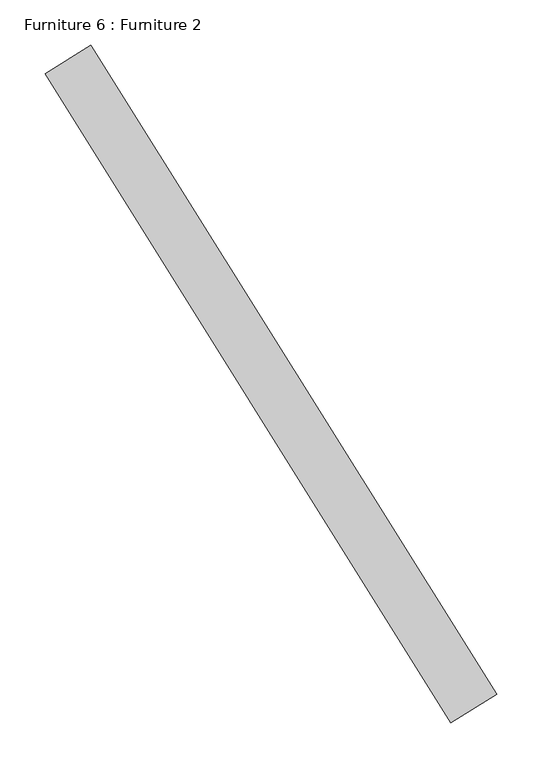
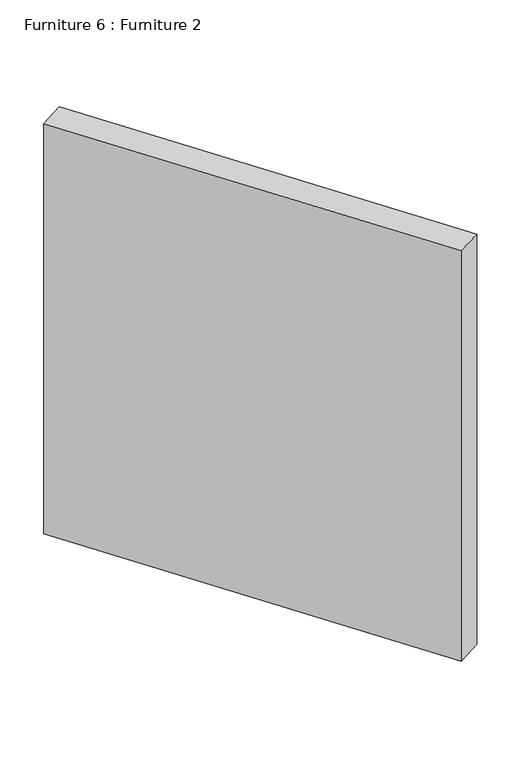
"""IFC4 building model written with IfcOpenShell, lengths in millimetres: furniture geometry, Furniture 6 : Furniture 2."""

from ifc_helpers import new_model, si_unit, frame, origin, place, context, project, spatial, polyline, outline, extrude, source, transform, mapped, element, save


def furniture_6_furniture_2_2fe2da03(model_context):
    return source(origin(), model_context, "Body", "SweptSolid", [
        extrude(outline(polyline([(-10433.5974971, 5931.9067329), (-10382.7146114, 5963.7018888), (-9932.5715311, 5243.3223745), (-9983.4544169, 5211.5272186), (-10433.5974971, 5931.9067329)])), frame((0.0, 0.0, 2500.0), z_axis=(0.0, 0.0, 1.0), x_axis=(1.0, 0.0, 0.0)), (0.0, 0.0, 1.0), 900.0),
    ])


if __name__ == "__main__":
    model = new_model("IFC4")
    model_context = context("Model", 3, world=origin())
    ifc_project = project(units=[si_unit("LENGTHUNIT", "METRE", prefix="MILLI")], contexts=[model_context])
    site = spatial("IfcSite", under=ifc_project)
    building = spatial("IfcBuilding", under=site)
    placement = place(None, origin())
    furniture_6_furniture_2_shape = furniture_6_furniture_2_2fe2da03(model_context)
    element("IfcFurniture", 1, ObjectType="Furniture 6 : Furniture 2", at=placement, inside=building, context=model_context, shape_type="MappedRepresentation", body=[
        mapped(furniture_6_furniture_2_shape, transform((0.0, 0.0, 0.0), x_axis=(1.0, 0.0, 0.0), y_axis=(0.0, 1.0, 0.0), z_axis=(0.0, 0.0, 1.0))),
    ])
    save(model, "model.ifc")
